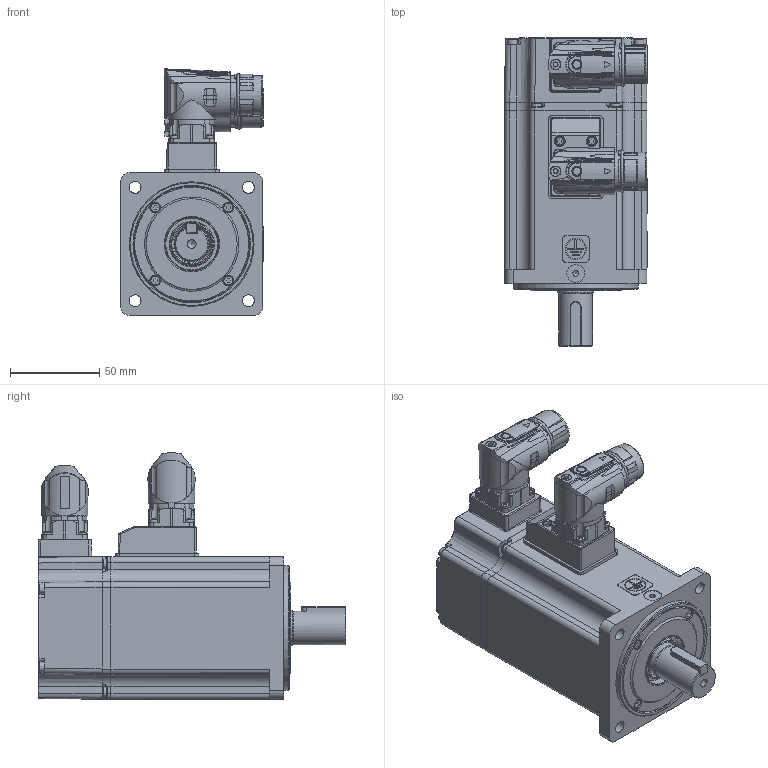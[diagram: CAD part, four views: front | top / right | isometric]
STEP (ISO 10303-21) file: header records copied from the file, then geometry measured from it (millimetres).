
FILE_DESCRIPTION( ( 'Unknown' ), '1' );
FILE_NAME( 'U:/05_Progetto TCE/010-TCE motor drawings/TCE80/vuoti/TCE80 3B XX 3 A2 0 C2.stp', 'Unknown', ( 'Unknown' ), ( 'Unknown' ), 'PSStep 17.0.49', 'Unknown', ' ' );
FILE_SCHEMA( ( 'AUTOMOTIVE_DESIGN { 1 0 10303 214 1 1 1 1 }' ) );
Length unit declared in the file: millimetre
Products named in the file (16): 005204000001
Bounding box: 80.3 x 173 x 138.5 mm (x, y, z)
Volume: 396766.5 mm3; surface area: 178505.6 mm2
Topology: 16 solids, 71 shells, 2821 faces, 7075 edges, 4538 vertices
Faces by surface type: plane 1344, cylinder 673, cone 267, bspline 230, torus 163, sphere 106, extrusion 38
Full cylindrical faces by diameter (mm): 1 x21, 1.2 x17, 1.4 x4, 2 x12, 2.013 x3, 2.2 x2, 2.459 x27, 2.5 x11, 2.65 x4, 2.7 x2, 2.8 x4, 3 x32, 3.2 x1, 3.242 x4, 3.5 x16, 4.4 x8, 4.5 x2, 4.7 x3, 4.917 x2, 5.5 x18, 5.8 x1, 5.9 x2, 6 x1, 6.8 x1, 8 x2, 10 x1, 11 x1, 12 x1, 13.3 x1, 14.99 x1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
Entity records: 114447 total; most frequent: CARTESIAN_POINT 32743, DIRECTION 12602, ORIENTED_EDGE 12376, EDGE_CURVE 6188, AXIS2_PLACEMENT_3D 4744, VERTEX_POINT 4302, EDGE_LOOP 3645, FACE_OUTER_BOUND 3189
